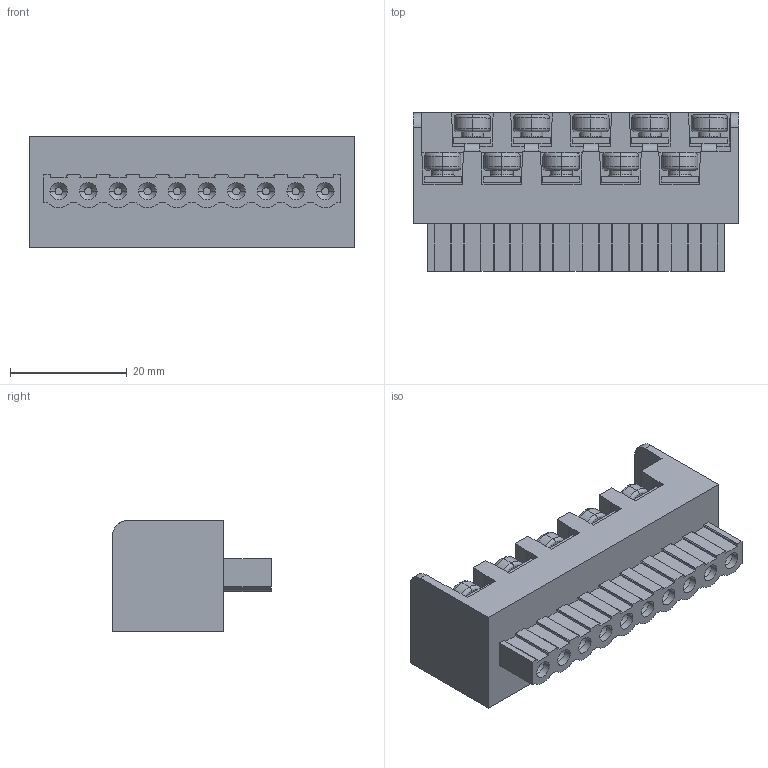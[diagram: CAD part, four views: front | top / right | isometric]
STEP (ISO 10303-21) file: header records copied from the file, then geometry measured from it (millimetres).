
FILE_DESCRIPTION((''),'2;1');
FILE_NAME('399400310','2015-10-13T',('me'),(''),'PRO/ENGINEER BY PARAMETRIC TECHNOLOGY CORPORATION, 2011490','PRO/ENGINEER BY PARAMETRIC TECHNOLOGY CORPORATION, 2011490','');
FILE_SCHEMA(('CONFIG_CONTROL_DESIGN'));
Length unit declared in the file: inch
Products named in the file (1): 399400310
Bounding box: 55.88 x 27.18 x 19.05 mm (x, y, z)
Volume: 16688.9 mm3; surface area: 8673.8 mm2
Topology: 1 solids, 1 shells, 752 faces, 2036 edges, 1337 vertices
Faces by surface type: plane 560, cylinder 112, torus 60, cone 20
Entity records: 23589 total; most frequent: CARTESIAN_POINT 4416, ORIENTED_EDGE 4032, DIRECTION 3902, EDGE_CURVE 2016, VECTOR 1592, LINE 1592, VERTEX_POINT 1297, AXIS2_PLACEMENT_3D 1155
